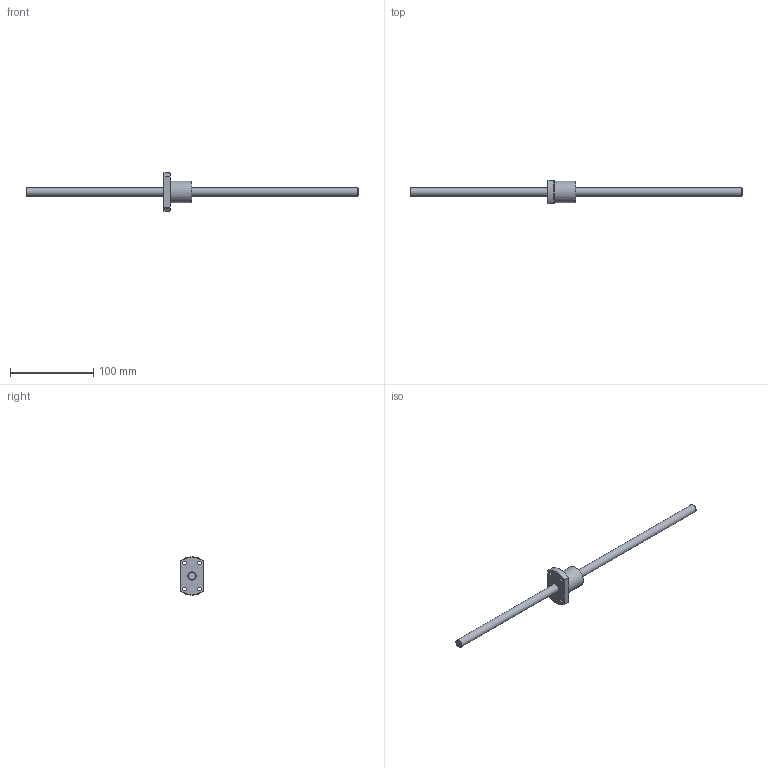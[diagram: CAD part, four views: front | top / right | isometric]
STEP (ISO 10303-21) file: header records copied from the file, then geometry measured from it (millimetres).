
FILE_DESCRIPTION((''),'2;1');
FILE_NAME('D:\製品 (図面)\カタログ用3D\ネジ関連\STEP形式\RBSMA\RBSMA1004-0400.stp','2010-06-02T14:41:32',('Tsuchiya'),(''),'Autodesk Inventor 10','Autodesk Inventor 10','');
FILE_SCHEMA(('AUTOMOTIVE_DESIGN { 1 0 10303 214 1 1 1 1 }'));
Length unit declared in the file: millimetre
Products named in the file (3): RBSMA1004-0400; RBSMA1004-04001; RBSMA1004-04002
Assembly tree (2 placements, depth 2):
  RBSMA1004-0400
    RBSMA1004-04001
    RBSMA1004-04002
Bounding box: 400 x 28 x 46 mm (x, y, z)
Volume: 51634.7 mm3; surface area: 19475.8 mm2
Topology: 2 solids, 2 shells, 23 faces, 55 edges, 37 vertices
Faces by surface type: cylinder 9, cone 7, plane 7
Full cylindrical faces by diameter (mm): 4.5 x4, 10 x2, 26 x1
Entity records: 684 total; most frequent: CARTESIAN_POINT 118, DIRECTION 114, ORIENTED_EDGE 82, AXIS2_PLACEMENT_3D 53, EDGE_LOOP 44, EDGE_CURVE 41, VERTEX_POINT 33, CIRCLE 25
